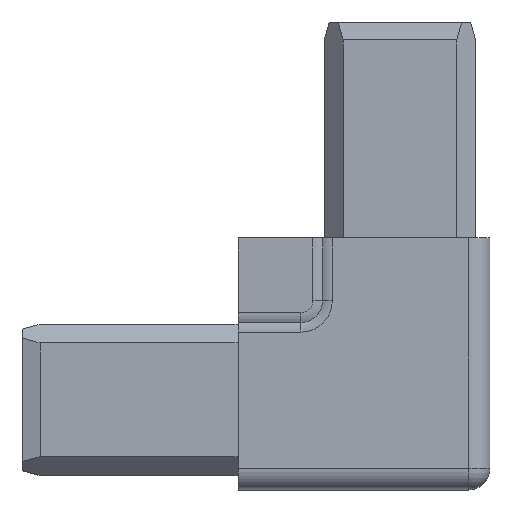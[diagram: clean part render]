
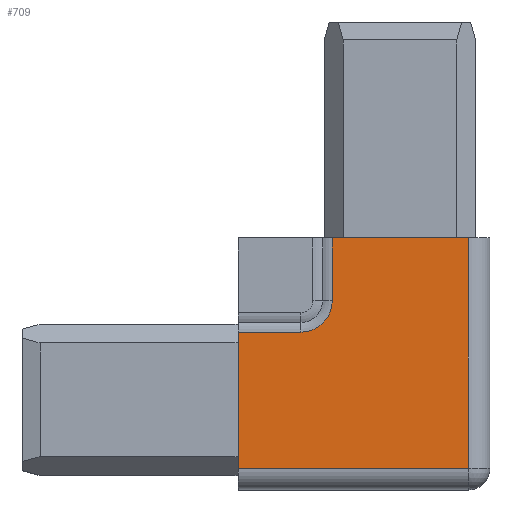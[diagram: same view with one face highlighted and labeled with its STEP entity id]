
A CAD part, top view. The second image highlights one B-rep face of the part: STEP entity #709.
In plain terms, the highlighted planar face has unit normal (0, 0, 1).
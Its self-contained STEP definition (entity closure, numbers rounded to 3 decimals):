
#63 = DIRECTION ( 'NONE',  ( 0., 0., 1. ) ) ;
#150 = EDGE_CURVE ( 'NONE', #1752, #931, #2095, .T. ) ;
#151 = DIRECTION ( 'NONE',  ( 0., 1., 0. ) ) ;
#205 = CARTESIAN_POINT ( 'NONE',  ( -22.5, 9.4, 12.5 ) ) ;
#292 = EDGE_CURVE ( 'NONE', #2295, #931, #590, .T. ) ;
#311 = CARTESIAN_POINT ( 'NONE',  ( 12.5, -9.5, 12.5 ) ) ;
#337 = CARTESIAN_POINT ( 'NONE',  ( 9.5, 22.5, 12.5 ) ) ;
#573 = CARTESIAN_POINT ( 'NONE',  ( 9.5, -9.5, 12.5 ) ) ;
#590 = LINE ( 'NONE', #2622, #2282 ) ;
#602 = CARTESIAN_POINT ( 'NONE',  ( 9.5, 22.5, 12.5 ) ) ;
#634 = CARTESIAN_POINT ( 'NONE',  ( -9.4, 13.75, 12.5 ) ) ;
#668 = CARTESIAN_POINT ( 'NONE',  ( -9.4, 22.5, 12.5 ) ) ;
#686 = EDGE_CURVE ( 'NONE', #2661, #1752, #2402, .T. ) ;
#709 = ADVANCED_FACE ( 'NONE', ( #1046 ), #1726, .T. ) ;
#728 = CARTESIAN_POINT ( 'NONE',  ( -13.75, 13.75, 12.5 ) ) ;
#743 = LINE ( 'NONE', #1215, #2693 ) ;
#746 = VERTEX_POINT ( 'NONE', #205 ) ;
#753 = AXIS2_PLACEMENT_3D ( 'NONE', #728, #63, #2710 ) ;
#758 = LINE ( 'NONE', #311, #2463 ) ;
#815 = VERTEX_POINT ( 'NONE', #1085 ) ;
#832 = CARTESIAN_POINT ( 'NONE',  ( 12.5, -12.5, 12.5 ) ) ;
#931 = VERTEX_POINT ( 'NONE', #668 ) ;
#950 = VECTOR ( 'NONE', #2670, 1000. ) ;
#955 = CARTESIAN_POINT ( 'NONE',  ( 12.5, 22.5, 12.5 ) ) ;
#1046 = FACE_OUTER_BOUND ( 'NONE', #2837, .T. ) ;
#1085 = CARTESIAN_POINT ( 'NONE',  ( -13.75, 9.4, 12.5 ) ) ;
#1141 = EDGE_CURVE ( 'NONE', #815, #746, #743, .T. ) ;
#1215 = CARTESIAN_POINT ( 'NONE',  ( -13.75, 9.4, 12.5 ) ) ;
#1307 = LINE ( 'NONE', #2899, #950 ) ;
#1505 = DIRECTION ( 'NONE',  ( 0., 1., 0. ) ) ;
#1526 = ORIENTED_EDGE ( 'NONE', *, *, #150, .T. ) ;
#1551 = ORIENTED_EDGE ( 'NONE', *, *, #1845, .T. ) ;
#1552 = VECTOR ( 'NONE', #1672, 1000. ) ;
#1554 = ORIENTED_EDGE ( 'NONE', *, *, #292, .F. ) ;
#1672 = DIRECTION ( 'NONE',  ( -1., 0., 0. ) ) ;
#1676 = VERTEX_POINT ( 'NONE', #2813 ) ;
#1681 = ORIENTED_EDGE ( 'NONE', *, *, #2107, .F. ) ;
#1720 = ORIENTED_EDGE ( 'NONE', *, *, #2163, .T. ) ;
#1726 = PLANE ( 'NONE',  #2482 ) ;
#1752 = VERTEX_POINT ( 'NONE', #602 ) ;
#1845 = EDGE_CURVE ( 'NONE', #746, #1676, #1307, .T. ) ;
#1867 = DIRECTION ( 'NONE',  ( -1., 0., 0. ) ) ;
#1922 = DIRECTION ( 'NONE',  ( 1., 0., 0. ) ) ;
#2036 = CIRCLE ( 'NONE', #753, 4.35 ) ;
#2095 = LINE ( 'NONE', #955, #1552 ) ;
#2107 = EDGE_CURVE ( 'NONE', #815, #2295, #2036, .T. ) ;
#2109 = DIRECTION ( 'NONE',  ( 1., 0., 0. ) ) ;
#2163 = EDGE_CURVE ( 'NONE', #1676, #2661, #758, .T. ) ;
#2280 = ORIENTED_EDGE ( 'NONE', *, *, #1141, .T. ) ;
#2282 = VECTOR ( 'NONE', #1505, 1000. ) ;
#2295 = VERTEX_POINT ( 'NONE', #634 ) ;
#2402 = LINE ( 'NONE', #337, #2910 ) ;
#2415 = DIRECTION ( 'NONE',  ( 0., 0., 1. ) ) ;
#2463 = VECTOR ( 'NONE', #2109, 1000. ) ;
#2482 = AXIS2_PLACEMENT_3D ( 'NONE', #832, #2415, #1922 ) ;
#2622 = CARTESIAN_POINT ( 'NONE',  ( -9.4, 13.75, 12.5 ) ) ;
#2647 = ORIENTED_EDGE ( 'NONE', *, *, #686, .T. ) ;
#2661 = VERTEX_POINT ( 'NONE', #573 ) ;
#2670 = DIRECTION ( 'NONE',  ( 0., -1., 0. ) ) ;
#2693 = VECTOR ( 'NONE', #1867, 1000. ) ;
#2710 = DIRECTION ( 'NONE',  ( 1., 0., 0. ) ) ;
#2813 = CARTESIAN_POINT ( 'NONE',  ( -22.5, -9.5, 12.5 ) ) ;
#2837 = EDGE_LOOP ( 'NONE', ( #1551, #1720, #2647, #1526, #1554, #1681, #2280 ) ) ;
#2899 = CARTESIAN_POINT ( 'NONE',  ( -22.5, -12.5, 12.5 ) ) ;
#2910 = VECTOR ( 'NONE', #151, 1000. ) ;
